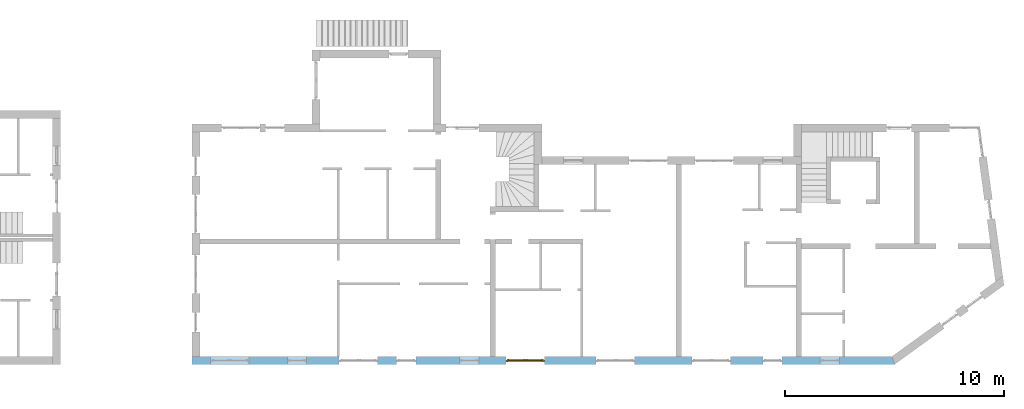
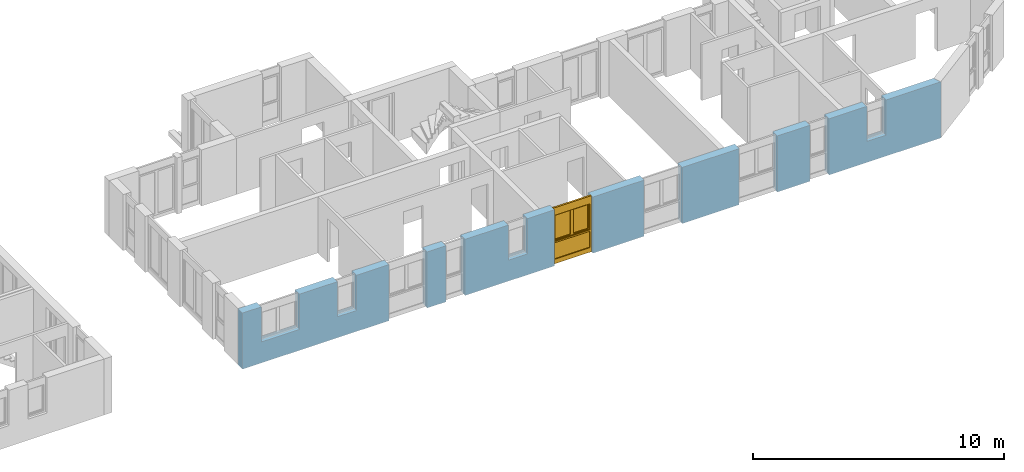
# One storey, part 26 of 41: 1 window, 10 openings, plus 1 element that does not belong to this part.
"""IFC2X3 building model written with IfcOpenShell, lengths in millimetres."""

from ifc_helpers import new_model, entity, si_unit, converted_unit, frame, frame_2d, origin, origin_with_axes, place, context, subcontext, project, spatial, polyline, rectangle, outline, extrude, faceted_brep, material, layer, layer_set, layer_usage, type_object, element, fill, save


model = new_model("IFC2X3")

# Units and contexts
model_context = context("Model", 3, precision=1e-05, world=origin())
body_context = subcontext(model_context, "Body", "Model", "MODEL_VIEW")
ifc_project = project(units=[si_unit("LENGTHUNIT", "METRE", prefix="MILLI"), converted_unit("PLANEANGLEUNIT", "DEGREE", entity("IfcPlaneAngleMeasure", 0.0174532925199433), si_unit("PLANEANGLEUNIT", "RADIAN"), dimensions=[0, 0, 0, 0, 0, 0, 0]), si_unit("AREAUNIT", "SQUARE_METRE"), si_unit("VOLUMEUNIT", "CUBIC_METRE")], contexts=[model_context])

# Building, storey
building_placement = place(None, origin())
building = spatial("IfcBuilding", under=ifc_project, at=building_placement, Name="Gebäude", CompositionType="ELEMENT")
storey_placement = place(building_placement, frame((0.0, 0.0, -200.0), z_axis=(0.0, 0.0, 1.0), x_axis=(1.0, 0.0, 0.0)))
storey = spatial("IfcBuildingStorey", under=building, at=storey_placement, Name="EG.- Grundriss", CompositionType="ELEMENT", Elevation=-200.0)

# Wall, openings, window
ifc_material_1 = material(Name="Poroton")
ifc_layer = layer(ifc_material_1, 365.0000000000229)
ifc_layer_set = layer_set([ifc_layer])
ifc_layer_usage = layer_usage(ifc_layer_set, "AXIS2", "POSITIVE", 0.0)
wall_placement = place(storey_placement, frame((148357.7928067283, 125274.8877324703, 0.0), z_axis=(0.0, 0.0, 1.0), x_axis=(1.0, -2.749268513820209e-11, 0.0)))
wall = element("IfcWallStandardCase", 1, at=wall_placement, inside=storey, material=ifc_layer_usage, Name="<Unnamed Element>", context=body_context, shape_type="SweptSolid", body=[
    extrude(outline(polyline([(0.0, 0.0), (32144.99999877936, 0.0), (32026.74038666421, 365.0000000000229), (-1.003483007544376e-08, 365.0), (0.0, 0.0)])), origin_with_axes(), (0.0, 0.0, 1.0), 2730.0),
])
opening_1_placement = place(wall_placement, frame((28740.29648749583, -1.103025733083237e-10, 1020.0), z_axis=(0.0, 1.0, 0.0), x_axis=(0.0, 0.0, 1.0)))
element("IfcOpeningElement", 2, at=opening_1_placement, cuts=wall, Name="Fensteröffnung", ObjectType="Opening", context=body_context, shape_type="SweptSolid", body=[
    extrude(rectangle(XDim=1710.0, YDim=885.0, at=frame_2d((855.0, 442.5), x_axis=(1.0, 0.0))), origin_with_axes(), (0.0, 0.0, 1.0), 365.0000000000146),
])
opening_2_placement = place(wall_placement, frame((26115.29648749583, -1.048456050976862e-10, 0.0), z_axis=(0.0, 1.0, 0.0), x_axis=(0.0, 0.0, 1.0)))
element("IfcOpeningElement", 3, at=opening_2_placement, cuts=wall, Name="Fensteröffnung", ObjectType="Opening", context=body_context, shape_type="SweptSolid", body=[
    extrude(rectangle(XDim=2730.0, YDim=885.0, at=frame_2d((1365.0, 442.5), x_axis=(1.0, 0.0))), origin_with_axes(), (0.0, 0.0, 1.0), 365.0000000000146),
])
opening_3_placement = place(wall_placement, frame((22865.29648749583, -7.937975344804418e-11, 0.0), z_axis=(0.0, 1.0, 0.0), x_axis=(0.0, 0.0, 1.0)))
element("IfcOpeningElement", 4, at=opening_3_placement, cuts=wall, Name="Fensteröffnung", ObjectType="Opening", context=body_context, shape_type="SweptSolid", body=[
    extrude(rectangle(XDim=2730.0, YDim=1760.0, at=frame_2d((1365.0, 880.0), x_axis=(1.0, 0.0))), origin_with_axes(), (0.0, 0.0, 1.0), 365.0000000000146),
])
opening_4_placement = place(wall_placement, frame((18490.51063065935, -4.984640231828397e-11, 0.0), z_axis=(0.0, 1.0, 0.0), x_axis=(0.0, 0.0, 1.0)))
element("IfcOpeningElement", 5, at=opening_4_placement, cuts=wall, Name="Fensteröffnung", ObjectType="Opening", context=body_context, shape_type="SweptSolid", body=[
    extrude(rectangle(XDim=2730.0, YDim=1760.0, at=frame_2d((1365.0, 880.0), x_axis=(1.0, 0.0))), origin_with_axes(), (0.0, 0.0, 1.0), 365.0000000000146),
])
opening_5_placement = place(wall_placement, frame((14365.26291871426, -7.302655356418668e-11, 0.0), z_axis=(0.0, 1.0, 0.0), x_axis=(0.0, 0.0, 1.0)))
opening_5 = element("IfcOpeningElement", 6, at=opening_5_placement, cuts=wall, Name="Fensteröffnung", ObjectType="Opening", context=body_context, shape_type="SweptSolid", body=[
    extrude(rectangle(XDim=2730.0, YDim=1760.0, at=frame_2d((1365.0, 880.0), x_axis=(1.0, 0.0))), origin_with_axes(), (0.0, 0.0, 1.0), 365.0000000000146),
])
opening_6_placement = place(wall_placement, frame((12240.0, -5.296897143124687e-11, 1020.0), z_axis=(0.0, 1.0, 0.0), x_axis=(0.0, 0.0, 1.0)))
element("IfcOpeningElement", 7, at=opening_6_placement, cuts=wall, Name="Fensteröffnung", ObjectType="Opening", context=body_context, shape_type="SweptSolid", body=[
    extrude(rectangle(XDim=1710.0, YDim=885.0, at=frame_2d((855.0, 442.5), x_axis=(1.0, 0.0))), origin_with_axes(), (0.0, 0.0, 1.0), 365.0000000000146),
])
opening_7_placement = place(wall_placement, frame((9365.0, -3.659806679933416e-11, 0.0), z_axis=(0.0, 1.0, 0.0), x_axis=(0.0, 0.0, 1.0)))
element("IfcOpeningElement", 8, at=opening_7_placement, cuts=wall, Name="Fensteröffnung", ObjectType="Opening", context=body_context, shape_type="SweptSolid", body=[
    extrude(rectangle(XDim=2730.0, YDim=885.0, at=frame_2d((1365.0, 442.5), x_axis=(1.0, 0.0))), origin_with_axes(), (0.0, 0.0, 1.0), 365.0000000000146),
])
opening_8_placement = place(wall_placement, frame((6740.0, -3.114109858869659e-11, 0.0), z_axis=(0.0, 1.0, 0.0), x_axis=(0.0, 0.0, 1.0)))
element("IfcOpeningElement", 9, at=opening_8_placement, cuts=wall, Name="Fensteröffnung", ObjectType="Opening", context=body_context, shape_type="SweptSolid", body=[
    extrude(rectangle(XDim=2730.0, YDim=1760.0, at=frame_2d((1365.0, 880.0), x_axis=(1.0, 0.0))), origin_with_axes(), (0.0, 0.0, 1.0), 365.0000000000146),
])
opening_9_placement = place(wall_placement, frame((4365.0, -7.494236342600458e-12, 1020.0), z_axis=(0.0, 1.0, 0.0), x_axis=(0.0, 0.0, 1.0)))
element("IfcOpeningElement", 10, at=opening_9_placement, cuts=wall, Name="Fensteröffnung", ObjectType="Opening", context=body_context, shape_type="SweptSolid", body=[
    extrude(rectangle(XDim=1710.0, YDim=885.0, at=frame_2d((855.0, 442.5), x_axis=(1.0, 0.0))), origin_with_axes(), (0.0, 0.0, 1.0), 365.0000000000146),
])
opening_10_placement = place(wall_placement, frame((865.0, -2.182787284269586e-13, 1020.0), z_axis=(0.0, 1.0, 0.0), x_axis=(0.0, 0.0, 1.0)))
element("IfcOpeningElement", 11, at=opening_10_placement, cuts=wall, Name="Fensteröffnung", ObjectType="Opening", context=body_context, shape_type="SweptSolid", body=[
    extrude(rectangle(XDim=1710.0, YDim=1760.0, at=frame_2d((854.9999999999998, 880.0), x_axis=(1.0, 0.0))), origin_with_axes(), (0.0, 0.0, 1.0), 365.0000000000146),
])
ifc_material_2 = material()
window_style = type_object("IfcWindowStyle", Name="Fenster", ConstructionType="NOTDEFINED", OperationType="USERDEFINED", ParameterTakesPrecedence=False, Sizeable=False)
window_placement = place(opening_5_placement, frame((0.0, 0.0, 0.0), z_axis=(1.0, 0.0, 0.0), x_axis=(0.0, 1.0, 0.0)))
window = element("IfcWindow", 12, at=window_placement, inside=storey, type_object=window_style, material=ifc_material_2, Name="Fenster", OverallHeight=2730.0, OverallWidth=1760.0, context=body_context, shape_type="Brep", body=[
    faceted_brep([(-1.221113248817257e-08, 199.999999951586, 2730.0), (-1.221113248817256e-08, 199.9999999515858, -2.449293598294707e-15), (69.99999998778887, 199.9999999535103, -2.449293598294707e-15), (69.99999998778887, 199.9999999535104, 2730.0), (-1.001171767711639e-08, 119.9999999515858, 2.449293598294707e-15), (-1.00117176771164e-08, 119.999999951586, 2730.0), (69.99999998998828, 119.9999999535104, 2730.0), (69.99999998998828, 119.9999999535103, 2.449293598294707e-15), (-1.221113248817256e-08, 199.9999999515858, -2.449293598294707e-15), (-1.221113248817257e-08, 199.999999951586, 2730.0), (-1.00117176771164e-08, 119.999999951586, 2730.0), (-1.001171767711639e-08, 119.9999999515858, 2.449293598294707e-15), (69.99999998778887, 199.9999999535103, -2.449293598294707e-15), (-1.221113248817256e-08, 199.9999999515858, -2.449293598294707e-15), (-1.001171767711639e-08, 119.9999999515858, 2.449293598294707e-15), (69.99999998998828, 119.9999999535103, 2.449293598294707e-15), (69.99999998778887, 199.9999999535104, 2730.0), (69.99999998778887, 199.9999999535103, -2.449293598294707e-15), (69.99999998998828, 119.9999999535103, 2.449293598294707e-15), (69.99999998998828, 119.9999999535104, 2730.0), (-1.221113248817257e-08, 199.999999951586, 2730.0), (69.99999998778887, 199.9999999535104, 2730.0), (69.99999998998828, 119.9999999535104, 2730.0), (-1.00117176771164e-08, 119.999999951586, 2730.0)], [[[0, 1, 2, 3]], [[4, 5, 6, 7]], [[8, 9, 10, 11]], [[12, 13, 14, 15]], [[16, 17, 18, 19]], [[20, 21, 22, 23]]], orient=[[False], [False], [False], [False], [False], [False]]),
    faceted_brep([(1689.999999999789, 199.9999999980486, 2730.0), (1689.999999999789, 199.9999999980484, -2.449293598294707e-15), (1759.999999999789, 199.9999999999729, -2.449293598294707e-15), (1759.999999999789, 199.9999999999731, 2730.0), (1690.000000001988, 119.9999999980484, 2.449293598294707e-15), (1690.000000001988, 119.9999999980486, 2730.0), (1760.000000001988, 119.9999999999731, 2730.0), (1760.000000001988, 119.9999999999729, 2.449293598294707e-15), (1689.999999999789, 199.9999999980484, -2.449293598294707e-15), (1689.999999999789, 199.9999999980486, 2730.0), (1690.000000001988, 119.9999999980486, 2730.0), (1690.000000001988, 119.9999999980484, 2.449293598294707e-15), (1759.999999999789, 199.9999999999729, -2.449293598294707e-15), (1689.999999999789, 199.9999999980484, -2.449293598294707e-15), (1690.000000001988, 119.9999999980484, 2.449293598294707e-15), (1760.000000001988, 119.9999999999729, 2.449293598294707e-15), (1759.999999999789, 199.9999999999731, 2730.0), (1759.999999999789, 199.9999999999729, -2.449293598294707e-15), (1760.000000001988, 119.9999999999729, 2.449293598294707e-15), (1760.000000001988, 119.9999999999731, 2730.0), (1689.999999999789, 199.9999999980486, 2730.0), (1759.999999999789, 199.9999999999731, 2730.0), (1760.000000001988, 119.9999999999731, 2730.0), (1690.000000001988, 119.9999999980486, 2730.0)], [[[0, 1, 2, 3]], [[4, 5, 6, 7]], [[8, 9, 10, 11]], [[12, 13, 14, 15]], [[16, 17, 18, 19]], [[20, 21, 22, 23]]], orient=[[False], [False], [False], [False], [False], [False]]),
    faceted_brep([(69.99999998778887, 199.9999999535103, 220.0), (69.99999998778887, 199.9999999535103, -2.449293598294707e-15), (1689.999999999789, 199.9999999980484, -2.449293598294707e-15), (1689.999999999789, 199.9999999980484, 220.0), (69.99999998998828, 119.9999999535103, 2.449293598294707e-15), (69.99999998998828, 119.9999999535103, 220.0), (1690.000000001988, 119.9999999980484, 220.0), (1690.000000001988, 119.9999999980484, 2.449293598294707e-15), (69.99999998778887, 199.9999999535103, -2.449293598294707e-15), (69.99999998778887, 199.9999999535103, 220.0), (69.99999998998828, 119.9999999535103, 220.0), (69.99999998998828, 119.9999999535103, 2.449293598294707e-15), (1689.999999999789, 199.9999999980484, -2.449293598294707e-15), (69.99999998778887, 199.9999999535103, -2.449293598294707e-15), (69.99999998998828, 119.9999999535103, 2.449293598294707e-15), (1690.000000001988, 119.9999999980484, 2.449293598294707e-15), (1689.999999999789, 199.9999999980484, 220.0), (1689.999999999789, 199.9999999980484, -2.449293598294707e-15), (1690.000000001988, 119.9999999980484, 2.449293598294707e-15), (1690.000000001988, 119.9999999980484, 220.0), (69.99999998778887, 199.9999999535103, 220.0), (1689.999999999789, 199.9999999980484, 220.0), (1690.000000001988, 119.9999999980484, 220.0), (69.99999998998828, 119.9999999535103, 220.0)], [[[0, 1, 2, 3]], [[4, 5, 6, 7]], [[8, 9, 10, 11]], [[12, 13, 14, 15]], [[16, 17, 18, 19]], [[20, 21, 22, 23]]], orient=[[False], [False], [False], [False], [False], [False]]),
    faceted_brep([(69.99999998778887, 199.9999999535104, 2730.0), (69.99999998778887, 199.9999999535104, 2360.0), (1689.999999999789, 199.9999999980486, 2360.0), (1689.999999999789, 199.9999999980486, 2730.0), (69.99999998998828, 119.9999999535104, 2360.0), (69.99999998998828, 119.9999999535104, 2730.0), (1690.000000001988, 119.9999999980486, 2730.0), (1690.000000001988, 119.9999999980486, 2360.0), (69.99999998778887, 199.9999999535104, 2360.0), (69.99999998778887, 199.9999999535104, 2730.0), (69.99999998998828, 119.9999999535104, 2730.0), (69.99999998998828, 119.9999999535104, 2360.0), (1689.999999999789, 199.9999999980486, 2360.0), (69.99999998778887, 199.9999999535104, 2360.0), (69.99999998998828, 119.9999999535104, 2360.0), (1690.000000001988, 119.9999999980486, 2360.0), (1689.999999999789, 199.9999999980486, 2730.0), (1689.999999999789, 199.9999999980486, 2360.0), (1690.000000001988, 119.9999999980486, 2360.0), (1690.000000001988, 119.9999999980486, 2730.0), (69.99999998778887, 199.9999999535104, 2730.0), (1689.999999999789, 199.9999999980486, 2730.0), (1690.000000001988, 119.9999999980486, 2730.0), (69.99999998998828, 119.9999999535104, 2730.0)], [[[0, 1, 2, 3]], [[4, 5, 6, 7]], [[8, 9, 10, 11]], [[12, 13, 14, 15]], [[16, 17, 18, 19]], [[20, 21, 22, 23]]], orient=[[False], [False], [False], [False], [False], [False]]),
    faceted_brep([(69.99999998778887, 199.9999999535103, 1090.0), (69.99999998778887, 199.9999999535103, 1020.0), (1689.999999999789, 199.9999999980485, 1020.0), (1689.999999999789, 199.9999999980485, 1090.0), (69.99999998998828, 119.9999999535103, 1020.0), (69.99999998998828, 119.9999999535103, 1090.0), (1690.000000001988, 119.9999999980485, 1090.0), (1690.000000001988, 119.9999999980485, 1020.0), (69.99999998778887, 199.9999999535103, 1020.0), (69.99999998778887, 199.9999999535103, 1090.0), (69.99999998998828, 119.9999999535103, 1090.0), (69.99999998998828, 119.9999999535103, 1020.0), (1689.999999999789, 199.9999999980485, 1020.0), (69.99999998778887, 199.9999999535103, 1020.0), (69.99999998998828, 119.9999999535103, 1020.0), (1690.000000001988, 119.9999999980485, 1020.0), (1689.999999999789, 199.9999999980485, 1090.0), (1689.999999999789, 199.9999999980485, 1020.0), (1690.000000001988, 119.9999999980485, 1020.0), (1690.000000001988, 119.9999999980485, 1090.0), (69.99999998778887, 199.9999999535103, 1090.0), (1689.999999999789, 199.9999999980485, 1090.0), (1690.000000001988, 119.9999999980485, 1090.0), (69.99999998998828, 119.9999999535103, 1090.0)], [[[0, 1, 2, 3]], [[4, 5, 6, 7]], [[8, 9, 10, 11]], [[12, 13, 14, 15]], [[16, 17, 18, 19]], [[20, 21, 22, 23]]], orient=[[False], [False], [False], [False], [False], [False]]),
    faceted_brep([(69.99999998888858, 159.9999999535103, 220.0), (1690.000000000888, 159.9999999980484, 220.0), (1690.000000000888, 159.9999999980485, 1020.0), (69.99999998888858, 159.9999999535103, 1020.0), (69.99999998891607, 158.9999999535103, 220.0), (69.99999998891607, 158.9999999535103, 1020.0), (1690.000000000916, 158.9999999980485, 1020.0), (1690.000000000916, 158.9999999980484, 220.0), (69.99999998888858, 159.9999999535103, 220.0), (69.99999998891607, 158.9999999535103, 220.0), (1690.000000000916, 158.9999999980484, 220.0), (1690.000000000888, 159.9999999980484, 220.0), (1690.000000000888, 159.9999999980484, 220.0), (1690.000000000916, 158.9999999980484, 220.0), (1690.000000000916, 158.9999999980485, 1020.0), (1690.000000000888, 159.9999999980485, 1020.0), (1690.000000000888, 159.9999999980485, 1020.0), (1690.000000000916, 158.9999999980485, 1020.0), (69.99999998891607, 158.9999999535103, 1020.0), (69.99999998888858, 159.9999999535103, 1020.0), (69.99999998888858, 159.9999999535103, 1020.0), (69.99999998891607, 158.9999999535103, 1020.0), (69.99999998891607, 158.9999999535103, 220.0), (69.99999998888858, 159.9999999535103, 220.0)], [[[0, 1, 2, 3]], [[4, 5, 6, 7]], [[8, 9, 10, 11]], [[12, 13, 14, 15]], [[16, 17, 18, 19]], [[20, 21, 22, 23]]], orient=[[False], [False], [False], [False], [False], [False]]),
    faceted_brep([(49.99999998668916, 239.9999999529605, 2380.0), (49.99999998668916, 239.9999999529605, 1070.0), (119.9999999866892, 239.999999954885, 1070.0), (119.9999999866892, 239.999999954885, 2380.0), (49.99999998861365, 169.9999999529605, 1070.0), (49.99999998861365, 169.9999999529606, 2380.0), (119.9999999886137, 169.999999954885, 2380.0), (119.9999999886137, 169.999999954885, 1070.0), (49.99999998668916, 239.9999999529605, 1070.0), (49.99999998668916, 239.9999999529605, 2380.0), (49.99999998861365, 169.9999999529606, 2380.0), (49.99999998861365, 169.9999999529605, 1070.0), (119.9999999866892, 239.999999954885, 1070.0), (49.99999998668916, 239.9999999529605, 1070.0), (49.99999998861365, 169.9999999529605, 1070.0), (119.9999999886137, 169.999999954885, 1070.0), (119.9999999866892, 239.999999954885, 2380.0), (119.9999999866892, 239.999999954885, 1070.0), (119.9999999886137, 169.999999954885, 1070.0), (119.9999999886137, 169.999999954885, 2380.0), (49.99999998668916, 239.9999999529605, 2380.0), (119.9999999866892, 239.999999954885, 2380.0), (119.9999999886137, 169.999999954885, 2380.0), (49.99999998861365, 169.9999999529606, 2380.0)], [[[0, 1, 2, 3]], [[4, 5, 6, 7]], [[8, 9, 10, 11]], [[12, 13, 14, 15]], [[16, 17, 18, 19]], [[20, 21, 22, 23]]], orient=[[False], [False], [False], [False], [False], [False]]),
    faceted_brep([(829.4999999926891, 239.9999999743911, 2380.0), (829.4999999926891, 239.999999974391, 1070.0), (899.4999999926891, 239.9999999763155, 1070.0), (899.4999999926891, 239.9999999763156, 2380.0), (829.4999999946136, 169.999999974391, 1070.0), (829.4999999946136, 169.9999999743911, 2380.0), (899.4999999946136, 169.9999999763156, 2380.0), (899.4999999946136, 169.9999999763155, 1070.0), (829.4999999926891, 239.999999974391, 1070.0), (829.4999999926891, 239.9999999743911, 2380.0), (829.4999999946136, 169.9999999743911, 2380.0), (829.4999999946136, 169.999999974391, 1070.0), (899.4999999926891, 239.9999999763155, 1070.0), (829.4999999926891, 239.999999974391, 1070.0), (829.4999999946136, 169.999999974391, 1070.0), (899.4999999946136, 169.9999999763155, 1070.0), (899.4999999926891, 239.9999999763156, 2380.0), (899.4999999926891, 239.9999999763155, 1070.0), (899.4999999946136, 169.9999999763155, 1070.0), (899.4999999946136, 169.9999999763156, 2380.0), (829.4999999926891, 239.9999999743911, 2380.0), (899.4999999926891, 239.9999999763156, 2380.0), (899.4999999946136, 169.9999999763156, 2380.0), (829.4999999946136, 169.9999999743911, 2380.0)], [[[0, 1, 2, 3]], [[4, 5, 6, 7]], [[8, 9, 10, 11]], [[12, 13, 14, 15]], [[16, 17, 18, 19]], [[20, 21, 22, 23]]], orient=[[False], [False], [False], [False], [False], [False]]),
    faceted_brep([(119.9999999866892, 239.999999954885, 1140.0), (119.9999999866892, 239.999999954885, 1070.0), (829.4999999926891, 239.999999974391, 1070.0), (829.4999999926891, 239.999999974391, 1140.0), (119.9999999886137, 169.999999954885, 1070.0), (119.9999999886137, 169.999999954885, 1140.0), (829.4999999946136, 169.999999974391, 1140.0), (829.4999999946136, 169.999999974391, 1070.0), (119.9999999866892, 239.999999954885, 1070.0), (119.9999999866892, 239.999999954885, 1140.0), (119.9999999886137, 169.999999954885, 1140.0), (119.9999999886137, 169.999999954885, 1070.0), (829.4999999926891, 239.999999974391, 1070.0), (119.9999999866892, 239.999999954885, 1070.0), (119.9999999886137, 169.999999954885, 1070.0), (829.4999999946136, 169.999999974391, 1070.0), (829.4999999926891, 239.999999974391, 1140.0), (829.4999999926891, 239.999999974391, 1070.0), (829.4999999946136, 169.999999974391, 1070.0), (829.4999999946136, 169.999999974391, 1140.0), (119.9999999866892, 239.999999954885, 1140.0), (829.4999999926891, 239.999999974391, 1140.0), (829.4999999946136, 169.999999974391, 1140.0), (119.9999999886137, 169.999999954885, 1140.0)], [[[0, 1, 2, 3]], [[4, 5, 6, 7]], [[8, 9, 10, 11]], [[12, 13, 14, 15]], [[16, 17, 18, 19]], [[20, 21, 22, 23]]], orient=[[False], [False], [False], [False], [False], [False]]),
    faceted_brep([(119.9999999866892, 239.999999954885, 2380.0), (119.9999999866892, 239.999999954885, 2310.0), (829.4999999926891, 239.9999999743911, 2310.0), (829.4999999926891, 239.9999999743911, 2380.0), (119.9999999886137, 169.999999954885, 2310.0), (119.9999999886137, 169.999999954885, 2380.0), (829.4999999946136, 169.9999999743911, 2380.0), (829.4999999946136, 169.9999999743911, 2310.0), (119.9999999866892, 239.999999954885, 2310.0), (119.9999999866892, 239.999999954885, 2380.0), (119.9999999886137, 169.999999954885, 2380.0), (119.9999999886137, 169.999999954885, 2310.0), (829.4999999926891, 239.9999999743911, 2310.0), (119.9999999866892, 239.999999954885, 2310.0), (119.9999999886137, 169.999999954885, 2310.0), (829.4999999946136, 169.9999999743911, 2310.0), (829.4999999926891, 239.9999999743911, 2380.0), (829.4999999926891, 239.9999999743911, 2310.0), (829.4999999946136, 169.9999999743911, 2310.0), (829.4999999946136, 169.9999999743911, 2380.0), (119.9999999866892, 239.999999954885, 2380.0), (829.4999999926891, 239.9999999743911, 2380.0), (829.4999999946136, 169.9999999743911, 2380.0), (119.9999999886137, 169.999999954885, 2380.0)], [[[0, 1, 2, 3]], [[4, 5, 6, 7]], [[8, 9, 10, 11]], [[12, 13, 14, 15]], [[16, 17, 18, 19]], [[20, 21, 22, 23]]], orient=[[False], [False], [False], [False], [False], [False]]),
    faceted_brep([(900.4999999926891, 239.9999999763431, 2380.0), (900.4999999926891, 239.999999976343, 1070.0), (970.4999999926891, 239.9999999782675, 1070.0), (970.4999999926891, 239.9999999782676, 2380.0), (900.4999999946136, 169.999999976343, 1070.0), (900.4999999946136, 169.9999999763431, 2380.0), (970.4999999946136, 169.9999999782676, 2380.0), (970.4999999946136, 169.9999999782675, 1070.0), (900.4999999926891, 239.999999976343, 1070.0), (900.4999999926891, 239.9999999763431, 2380.0), (900.4999999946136, 169.9999999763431, 2380.0), (900.4999999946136, 169.999999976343, 1070.0), (970.4999999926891, 239.9999999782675, 1070.0), (900.4999999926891, 239.999999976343, 1070.0), (900.4999999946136, 169.999999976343, 1070.0), (970.4999999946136, 169.9999999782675, 1070.0), (970.4999999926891, 239.9999999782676, 2380.0), (970.4999999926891, 239.9999999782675, 1070.0), (970.4999999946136, 169.9999999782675, 1070.0), (970.4999999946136, 169.9999999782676, 2380.0), (900.4999999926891, 239.9999999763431, 2380.0), (970.4999999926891, 239.9999999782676, 2380.0), (970.4999999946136, 169.9999999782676, 2380.0), (900.4999999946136, 169.9999999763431, 2380.0)], [[[0, 1, 2, 3]], [[4, 5, 6, 7]], [[8, 9, 10, 11]], [[12, 13, 14, 15]], [[16, 17, 18, 19]], [[20, 21, 22, 23]]], orient=[[False], [False], [False], [False], [False], [False]]),
    faceted_brep([(1639.999999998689, 239.9999999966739, 2380.0), (1639.999999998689, 239.9999999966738, 1070.0), (1709.999999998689, 239.9999999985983, 1070.0), (1709.999999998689, 239.9999999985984, 2380.0), (1640.000000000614, 169.9999999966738, 1070.0), (1640.000000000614, 169.9999999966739, 2380.0), (1710.000000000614, 169.9999999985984, 2380.0), (1710.000000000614, 169.9999999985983, 1070.0), (1639.999999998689, 239.9999999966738, 1070.0), (1639.999999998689, 239.9999999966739, 2380.0), (1640.000000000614, 169.9999999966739, 2380.0), (1640.000000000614, 169.9999999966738, 1070.0), (1709.999999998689, 239.9999999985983, 1070.0), (1639.999999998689, 239.9999999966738, 1070.0), (1640.000000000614, 169.9999999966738, 1070.0), (1710.000000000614, 169.9999999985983, 1070.0), (1709.999999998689, 239.9999999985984, 2380.0), (1709.999999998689, 239.9999999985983, 1070.0), (1710.000000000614, 169.9999999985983, 1070.0), (1710.000000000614, 169.9999999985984, 2380.0), (1639.999999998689, 239.9999999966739, 2380.0), (1709.999999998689, 239.9999999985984, 2380.0), (1710.000000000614, 169.9999999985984, 2380.0), (1640.000000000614, 169.9999999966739, 2380.0)], [[[0, 1, 2, 3]], [[4, 5, 6, 7]], [[8, 9, 10, 11]], [[12, 13, 14, 15]], [[16, 17, 18, 19]], [[20, 21, 22, 23]]], orient=[[False], [False], [False], [False], [False], [False]]),
    faceted_brep([(970.4999999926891, 239.9999999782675, 1140.0), (970.4999999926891, 239.9999999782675, 1070.0), (1639.999999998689, 239.9999999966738, 1070.0), (1639.999999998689, 239.9999999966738, 1140.0), (970.4999999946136, 169.9999999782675, 1070.0), (970.4999999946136, 169.9999999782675, 1140.0), (1640.000000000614, 169.9999999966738, 1140.0), (1640.000000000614, 169.9999999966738, 1070.0), (970.4999999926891, 239.9999999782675, 1070.0), (970.4999999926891, 239.9999999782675, 1140.0), (970.4999999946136, 169.9999999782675, 1140.0), (970.4999999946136, 169.9999999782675, 1070.0), (1639.999999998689, 239.9999999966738, 1070.0), (970.4999999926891, 239.9999999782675, 1070.0), (970.4999999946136, 169.9999999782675, 1070.0), (1640.000000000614, 169.9999999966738, 1070.0), (1639.999999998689, 239.9999999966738, 1140.0), (1639.999999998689, 239.9999999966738, 1070.0), (1640.000000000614, 169.9999999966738, 1070.0), (1640.000000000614, 169.9999999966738, 1140.0), (970.4999999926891, 239.9999999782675, 1140.0), (1639.999999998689, 239.9999999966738, 1140.0), (1640.000000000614, 169.9999999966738, 1140.0), (970.4999999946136, 169.9999999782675, 1140.0)], [[[0, 1, 2, 3]], [[4, 5, 6, 7]], [[8, 9, 10, 11]], [[12, 13, 14, 15]], [[16, 17, 18, 19]], [[20, 21, 22, 23]]], orient=[[False], [False], [False], [False], [False], [False]]),
    faceted_brep([(970.4999999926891, 239.9999999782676, 2380.0), (970.4999999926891, 239.9999999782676, 2310.0), (1639.999999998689, 239.9999999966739, 2310.0), (1639.999999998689, 239.9999999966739, 2380.0), (970.4999999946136, 169.9999999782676, 2310.0), (970.4999999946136, 169.9999999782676, 2380.0), (1640.000000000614, 169.9999999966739, 2380.0), (1640.000000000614, 169.9999999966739, 2310.0), (970.4999999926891, 239.9999999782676, 2310.0), (970.4999999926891, 239.9999999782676, 2380.0), (970.4999999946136, 169.9999999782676, 2380.0), (970.4999999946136, 169.9999999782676, 2310.0), (1639.999999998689, 239.9999999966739, 2310.0), (970.4999999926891, 239.9999999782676, 2310.0), (970.4999999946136, 169.9999999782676, 2310.0), (1640.000000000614, 169.9999999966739, 2310.0), (1639.999999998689, 239.9999999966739, 2380.0), (1639.999999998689, 239.9999999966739, 2310.0), (1640.000000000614, 169.9999999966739, 2310.0), (1640.000000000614, 169.9999999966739, 2380.0), (970.4999999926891, 239.9999999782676, 2380.0), (1639.999999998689, 239.9999999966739, 2380.0), (1640.000000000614, 169.9999999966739, 2380.0), (970.4999999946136, 169.9999999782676, 2380.0)], [[[0, 1, 2, 3]], [[4, 5, 6, 7]], [[8, 9, 10, 11]], [[12, 13, 14, 15]], [[16, 17, 18, 19]], [[20, 21, 22, 23]]], orient=[[False], [False], [False], [False], [False], [False]]),
    faceted_brep([(119.9999999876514, 204.999999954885, 1140.0), (829.4999999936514, 204.9999999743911, 1140.0), (829.4999999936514, 204.9999999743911, 2310.0), (119.9999999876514, 204.9999999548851, 2310.0), (119.9999999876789, 203.999999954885, 1140.0), (119.9999999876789, 203.9999999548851, 2310.0), (829.4999999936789, 203.9999999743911, 2310.0), (829.4999999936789, 203.9999999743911, 1140.0), (119.9999999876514, 204.999999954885, 1140.0), (119.9999999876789, 203.999999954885, 1140.0), (829.4999999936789, 203.9999999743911, 1140.0), (829.4999999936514, 204.9999999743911, 1140.0), (829.4999999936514, 204.9999999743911, 1140.0), (829.4999999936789, 203.9999999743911, 1140.0), (829.4999999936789, 203.9999999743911, 2310.0), (829.4999999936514, 204.9999999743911, 2310.0), (829.4999999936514, 204.9999999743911, 2310.0), (829.4999999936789, 203.9999999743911, 2310.0), (119.9999999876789, 203.9999999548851, 2310.0), (119.9999999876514, 204.9999999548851, 2310.0), (119.9999999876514, 204.9999999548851, 2310.0), (119.9999999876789, 203.9999999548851, 2310.0), (119.9999999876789, 203.999999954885, 1140.0), (119.9999999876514, 204.999999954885, 1140.0)], [[[0, 1, 2, 3]], [[4, 5, 6, 7]], [[8, 9, 10, 11]], [[12, 13, 14, 15]], [[16, 17, 18, 19]], [[20, 21, 22, 23]]], orient=[[False], [False], [False], [False], [False], [False]]),
    faceted_brep([(970.4999999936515, 204.9999999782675, 1140.0), (1639.999999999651, 204.9999999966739, 1140.0), (1639.999999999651, 204.9999999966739, 2310.0), (970.4999999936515, 204.9999999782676, 2310.0), (970.499999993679, 203.9999999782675, 1140.0), (970.499999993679, 203.9999999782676, 2310.0), (1639.999999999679, 203.9999999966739, 2310.0), (1639.999999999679, 203.9999999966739, 1140.0), (970.4999999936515, 204.9999999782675, 1140.0), (970.499999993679, 203.9999999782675, 1140.0), (1639.999999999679, 203.9999999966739, 1140.0), (1639.999999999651, 204.9999999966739, 1140.0), (1639.999999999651, 204.9999999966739, 1140.0), (1639.999999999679, 203.9999999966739, 1140.0), (1639.999999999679, 203.9999999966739, 2310.0), (1639.999999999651, 204.9999999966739, 2310.0), (1639.999999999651, 204.9999999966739, 2310.0), (1639.999999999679, 203.9999999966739, 2310.0), (970.499999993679, 203.9999999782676, 2310.0), (970.4999999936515, 204.9999999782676, 2310.0), (970.4999999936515, 204.9999999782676, 2310.0), (970.499999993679, 203.9999999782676, 2310.0), (970.499999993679, 203.9999999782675, 1140.0), (970.4999999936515, 204.9999999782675, 1140.0)], [[[0, 1, 2, 3]], [[4, 5, 6, 7]], [[8, 9, 10, 11]], [[12, 13, 14, 15]], [[16, 17, 18, 19]], [[20, 21, 22, 23]]], orient=[[False], [False], [False], [False], [False], [False]]),
])
fill(opening_5, window)

save(model, "model.ifc")
